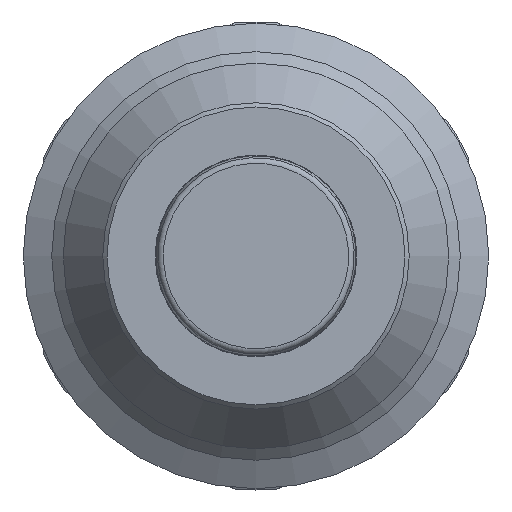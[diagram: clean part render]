
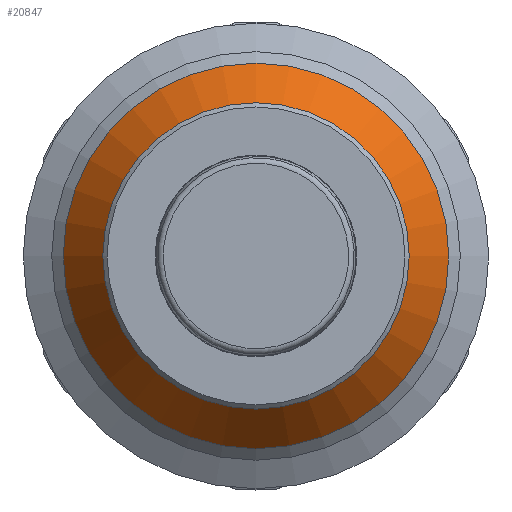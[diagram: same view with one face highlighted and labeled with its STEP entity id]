
A CAD part, front view. The second image highlights one B-rep face of the part: STEP entity #20847.
In plain terms, the highlighted conical face has half-angle 36.001 degrees and reference radius 20.325 mm.
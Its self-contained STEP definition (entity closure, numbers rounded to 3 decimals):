
#812=CONICAL_SURFACE('',#22012,20.325,0.628);
#1167=FACE_OUTER_BOUND('',#2295,.T.);
#2295=EDGE_LOOP('',(#13251,#13252,#13253,#13254));
#4994=CIRCLE('',#22011,22.65);
#4995=CIRCLE('',#22013,18.);
#5381=LINE('',#25833,#6626);
#6626=VECTOR('',#22872,20.325);
#7894=VERTEX_POINT('',#25828);
#7895=VERTEX_POINT('',#25832);
#10032=EDGE_CURVE('',#7894,#7894,#4994,.T.);
#10033=EDGE_CURVE('',#7894,#7895,#5381,.T.);
#10034=EDGE_CURVE('',#7895,#7895,#4995,.T.);
#13251=ORIENTED_EDGE('',*,*,#10032,.F.);
#13252=ORIENTED_EDGE('',*,*,#10033,.T.);
#13253=ORIENTED_EDGE('',*,*,#10034,.T.);
#13254=ORIENTED_EDGE('',*,*,#10033,.F.);
#20847=ADVANCED_FACE('',(#1167),#812,.T.);
#22011=AXIS2_PLACEMENT_3D('',#25830,#22868,#22869);
#22012=AXIS2_PLACEMENT_3D('',#25831,#22870,#22871);
#22013=AXIS2_PLACEMENT_3D('',#25834,#22873,#22874);
#22868=DIRECTION('center_axis',(0.,1.,0.));
#22869=DIRECTION('ref_axis',(1.,0.,0.));
#22870=DIRECTION('center_axis',(0.,1.,0.));
#22871=DIRECTION('ref_axis',(-1.,0.,0.));
#22872=DIRECTION('',(-0.588,-0.809,0.));
#22873=DIRECTION('center_axis',(0.,1.,0.));
#22874=DIRECTION('ref_axis',(1.,0.,0.));
#25828=CARTESIAN_POINT('',(22.65,-4.85,0.));
#25830=CARTESIAN_POINT('Origin',(0.,-4.85,0.));
#25831=CARTESIAN_POINT('Origin',(0.,-8.05,0.));
#25832=CARTESIAN_POINT('',(18.,-11.25,0.));
#25833=CARTESIAN_POINT('',(20.325,-8.05,0.));
#25834=CARTESIAN_POINT('Origin',(0.,-11.25,0.));
